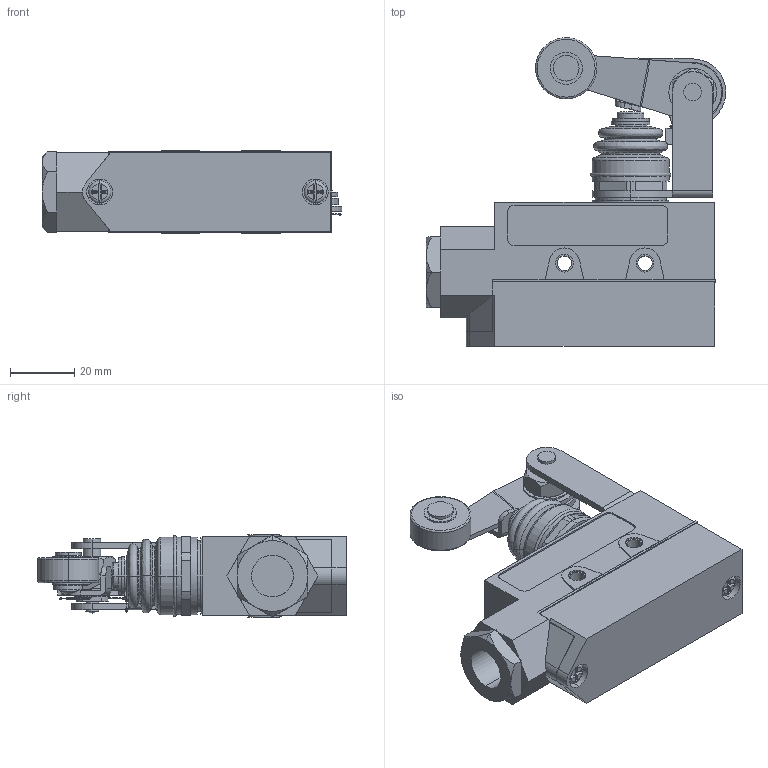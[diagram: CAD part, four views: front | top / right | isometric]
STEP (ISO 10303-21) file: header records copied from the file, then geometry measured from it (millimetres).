
FILE_DESCRIPTION (( 'STEP AP203' ), '1' );
FILE_NAME ('8025ABHSL.STEP', '2019-03-27T12:57:23', ( '' ), ( '' ), 'SwSTEP 2.0', 'SolidWorks 2012', '' );
FILE_SCHEMA (( 'CONFIG_CONTROL_DESIGN' ));
Length unit declared in the file: millimetre
Products named in the file (1): 8025ABHSL
Bounding box: 93.09 x 95.9 x 25.5 mm (x, y, z)
Volume: 101016.3 mm3; surface area: 26042.1 mm2
Topology: 1 solids, 1 shells, 411 faces, 1009 edges, 635 vertices
Faces by surface type: plane 212, cylinder 130, cone 29, torus 28, bspline 8, sphere 4
Entity records: 13658 total; most frequent: CARTESIAN_POINT 3876, DIRECTION 2045, ORIENTED_EDGE 2018, EDGE_CURVE 1009, AXIS2_PLACEMENT_3D 750, VERTEX_POINT 635, VECTOR 545, LINE 545
